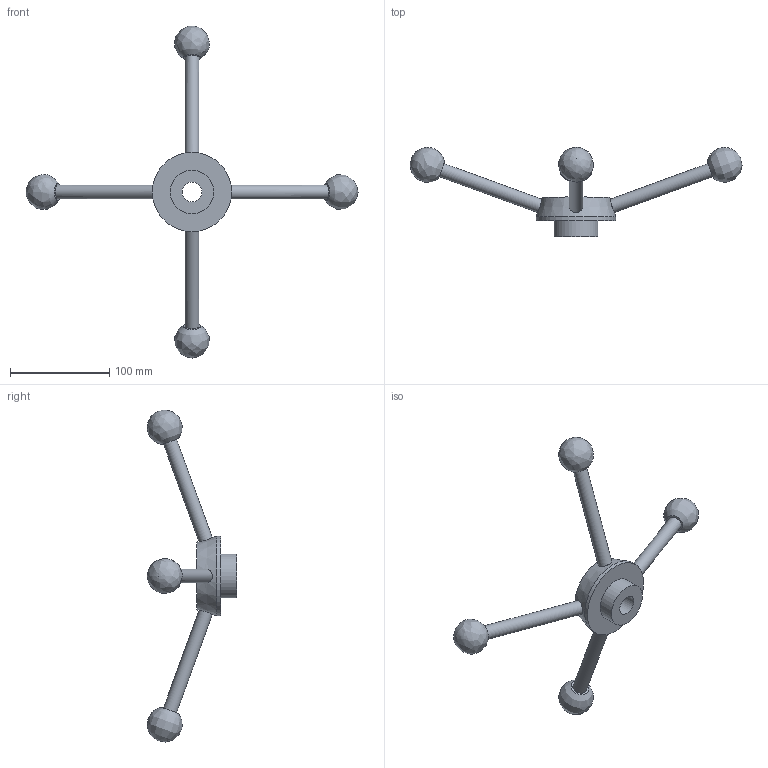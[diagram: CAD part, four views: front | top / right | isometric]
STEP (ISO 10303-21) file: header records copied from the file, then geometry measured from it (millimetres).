
FILE_DESCRIPTION( ( 'STEP AP203' ), '1' );
FILE_NAME( 'C:/Temp/Ganter_Step_05_03_2020/data/2_1/gn_213/gn_213_b/Turret lever GN 213-80-B20.stp', '2020-03-05T11:51:02', ( 'License CC BY-ND 4.0' ), ( 'CADENAS' ), ' ', 'PARTsolutions', ' ' );
FILE_SCHEMA( ( 'CONFIG_CONTROL_DESIGN' ) );
Length unit declared in the file: millimetre
Products named in the file (1): _Turret lever GN 213-80-B20
Bounding box: 334.44 x 89.97 x 334.44 mm (x, y, z)
Volume: 273988 mm3; surface area: 51534 mm2
Topology: 1 solids, 1 shells, 19 faces, 42 edges, 29 vertices
Faces by surface type: cylinder 7, plane 7, bspline 4, cone 1
Full cylindrical faces by diameter (mm): 14 x4, 20 x1, 44 x1, 80 x1
Entity records: 876 total; most frequent: CARTESIAN_POINT 518, DIRECTION 62, EDGE_LOOP 38, ORIENTED_EDGE 38, AXIS2_PLACEMENT_3D 31, FACE_OUTER_BOUND 26, VERTEX_POINT 23, ADVANCED_FACE 19
